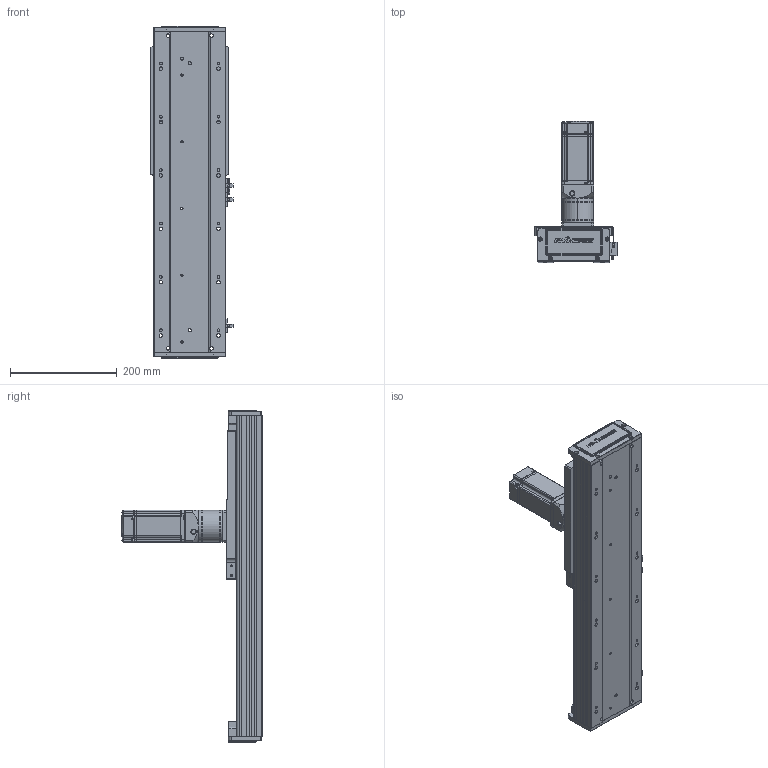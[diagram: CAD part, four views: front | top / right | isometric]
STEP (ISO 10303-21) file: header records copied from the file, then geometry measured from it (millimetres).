
FILE_DESCRIPTION (( 'STEP AP203' ), '1' );
FILE_NAME ('RY140-C-250-UK.SLDASM_默认.step', '2022-03-12T01:57:53', ( '' ), ( '' ), 'SwSTEP 2.0', 'SolidWorks 2016', '' );
FILE_SCHEMA (( 'CONFIG_CONTROL_DESIGN' ));
Length unit declared in the file: millimetre
Products named in the file (12): 15; 140蚥薯蝶輸; RY140-喘謫萇儂覃誹啣; RY120外置感应片(140共用）; 絳寢賑輸EGH15; 覜茼ん672; RY140-絳寢EGH15-300-MK_250; 60ZDF珨撰俋倛芞T1 200W M4; RY140-C-250-UK.SLDASM_默认; RY140-喘沭裔啣; RY140-300齿条模组型材底座_250; RY140-喘沭賑輸
Assembly tree (21 placements, depth 2):
  RY140-C-250-UK.SLDASM_默认
    RY140-300齿条模组型材底座_250
    RY140-絳寢EGH15-300-MK_250  x2
    絳寢賑輸EGH15  x6
    RY140-喘沭裔啣  x2
    覜茼ん672  x3
    RY140-喘沭賑輸
    RY120外置感应片(140共用）
    RY140-喘謫萇儂覃誹啣
    140蚥薯蝶輸  x2
    60ZDF珨撰俋倛芞T1 200W M4
    15
Bounding box: 153.7 x 263.5 x 622 mm (x, y, z)
Volume: 3227730.7 mm3; surface area: 771736.3 mm2
Topology: 21 solids, 21 shells, 3022 faces, 7924 edges, 5146 vertices
Faces by surface type: plane 1610, cylinder 1178, cone 188, bspline 46
Entity records: 64143 total; most frequent: CARTESIAN_POINT 13324, DIRECTION 10351, ORIENTED_EDGE 10178, EDGE_CURVE 5089, AXIS2_PLACEMENT_3D 3606, VERTEX_POINT 3327, LINE 3139, VECTOR 3139
